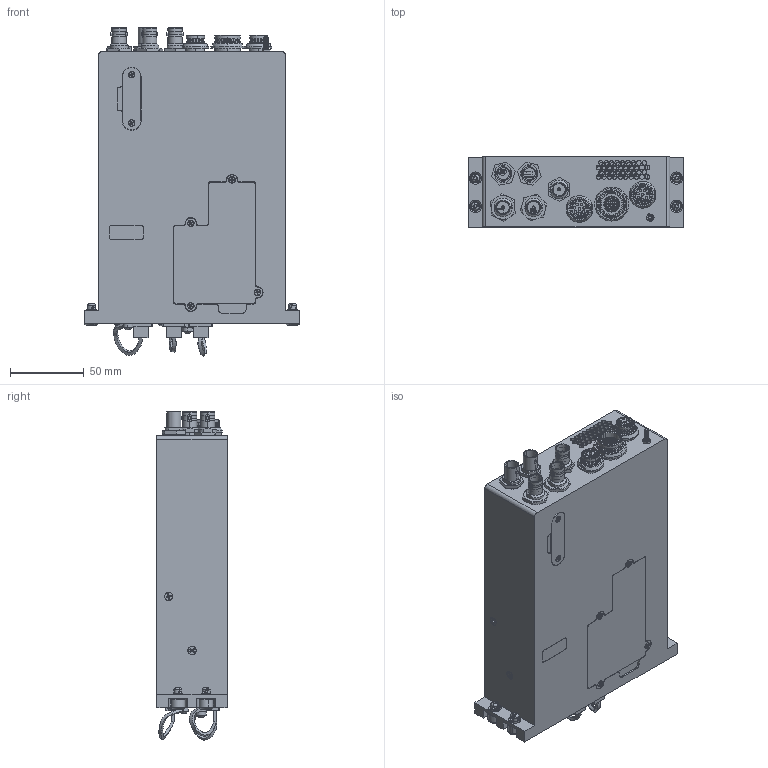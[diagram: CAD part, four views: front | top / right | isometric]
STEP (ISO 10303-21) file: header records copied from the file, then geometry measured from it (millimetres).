
FILE_DESCRIPTION (( 'STEP AP203' ), '1' );
FILE_NAME ('US007-0001-Rev1.1_ATOM 2 Mission Computer.STEP', '2023-04-27T12:39:31', ( '' ), ( '' ), 'SwSTEP 2.0', 'SolidWorks 2022', '' );
FILE_SCHEMA (( 'CONFIG_CONTROL_DESIGN' ));
Length unit declared in the file: millimetre
Products named in the file (1): US007-0001-Rev1.1_ATOM 2 Mission Computer
Bounding box: 146.05 x 47.62 x 222.23 mm (x, y, z)
Surface area: 104303.9 mm2 (no closed solid volume)
Topology: 0 solids, 966 shells, 4111 faces, 14573 edges, 11189 vertices
Faces by surface type: plane 2221, cylinder 1455, cone 216, bspline 151, torus 46, sphere 22
Entity records: 172087 total; most frequent: CARTESIAN_POINT 50670, DIRECTION 25172, ORIENTED_EDGE 20804, EDGE_CURVE 14541, VERTEX_POINT 11198, LINE 8752, VECTOR 8752, AXIS2_PLACEMENT_3D 8210
